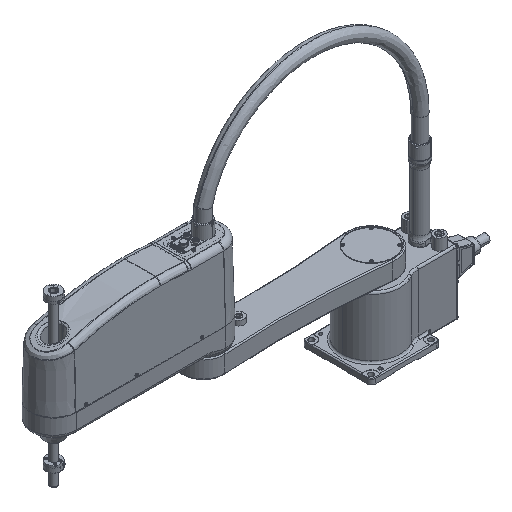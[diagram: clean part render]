
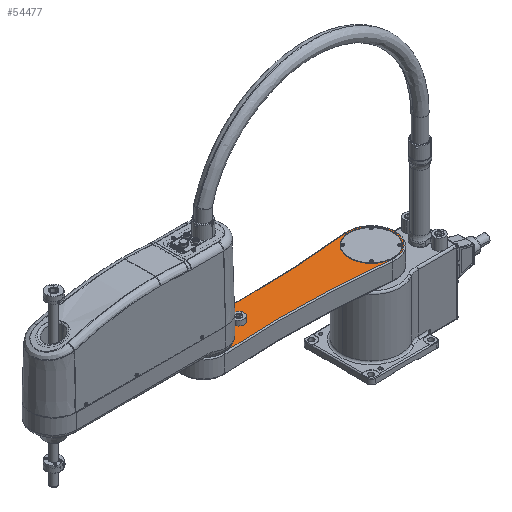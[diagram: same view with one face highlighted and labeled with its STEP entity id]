
A CAD part, isometric view. The second image highlights one B-rep face of the part: STEP entity #54477.
In plain terms, the highlighted planar face has unit normal (0, 0, 1).
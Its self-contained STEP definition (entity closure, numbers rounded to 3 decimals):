
#476 = EDGE_CURVE ( 'NONE', #72257, #97429, #12813, .T. ) ;
#738 = VERTEX_POINT ( 'NONE', #36835 ) ;
#5282 = CIRCLE ( 'NONE', #88808, 3. ) ;
#5458 = VERTEX_POINT ( 'NONE', #39497 ) ;
#5676 = ORIENTED_EDGE ( 'NONE', *, *, #22782, .T. ) ;
#5983 = DIRECTION ( 'NONE',  ( 0., 0., -1. ) ) ;
#6880 = AXIS2_PLACEMENT_3D ( 'NONE', #106410, #52424, #115445 ) ;
#7465 = LINE ( 'NONE', #12147, #28508 ) ;
#9958 = CARTESIAN_POINT ( 'NONE',  ( 446.579, -51.887, 50. ) ) ;
#10765 = AXIS2_PLACEMENT_3D ( 'NONE', #21929, #84859, #30945 ) ;
#10934 = CARTESIAN_POINT ( 'NONE',  ( 450., 0., 50. ) ) ;
#11187 = CARTESIAN_POINT ( 'NONE',  ( 451.999, -51.962, 50. ) ) ;
#11496 = VERTEX_POINT ( 'NONE', #44346 ) ;
#12147 = CARTESIAN_POINT ( 'NONE',  ( 448., -51., 50. ) ) ;
#12613 = ORIENTED_EDGE ( 'NONE', *, *, #95068, .T. ) ;
#12781 = VERTEX_POINT ( 'NONE', #105451 ) ;
#12813 = CIRCLE ( 'NONE', #35641, 52. ) ;
#14758 = AXIS2_PLACEMENT_3D ( 'NONE', #86969, #33008, #96038 ) ;
#16914 = DIRECTION ( 'NONE',  ( 0., 0., -1. ) ) ;
#18353 = ORIENTED_EDGE ( 'NONE', *, *, #38612, .F. ) ;
#18889 = DIRECTION ( 'NONE',  ( 0., 0., 1. ) ) ;
#19962 = DIRECTION ( 'NONE',  ( 1., 0., 0. ) ) ;
#20480 = DIRECTION ( 'NONE',  ( 0., 0., 1. ) ) ;
#21929 = CARTESIAN_POINT ( 'NONE',  ( 449., -52., 50. ) ) ;
#22160 = EDGE_CURVE ( 'NONE', #28696, #12781, #70699, .T. ) ;
#22195 = AXIS2_PLACEMENT_3D ( 'NONE', #72747, #18889, #81837 ) ;
#22782 = EDGE_CURVE ( 'NONE', #112933, #58259, #32563, .T. ) ;
#23342 = FACE_OUTER_BOUND ( 'NONE', #110722, .T. ) ;
#24545 = ORIENTED_EDGE ( 'NONE', *, *, #476, .T. ) ;
#24631 = DIRECTION ( 'NONE',  ( 0., 0., 1. ) ) ;
#27643 = EDGE_CURVE ( 'NONE', #68165, #112933, #76744, .T. ) ;
#28150 = AXIS2_PLACEMENT_3D ( 'NONE', #106952, #88422, #116015 ) ;
#28508 = VECTOR ( 'NONE', #56906, 1000. ) ;
#28696 = VERTEX_POINT ( 'NONE', #29093 ) ;
#28790 = ORIENTED_EDGE ( 'NONE', *, *, #93494, .F. ) ;
#29093 = CARTESIAN_POINT ( 'NONE',  ( 6.814, 61.624, 50. ) ) ;
#30916 = VERTEX_POINT ( 'NONE', #77574 ) ;
#30945 = DIRECTION ( 'NONE',  ( 1., 0., 0. ) ) ;
#32563 = CIRCLE ( 'NONE', #10765, 1. ) ;
#33008 = DIRECTION ( 'NONE',  ( 0., 0., -1. ) ) ;
#33538 = CIRCLE ( 'NONE', #14758, 2503. ) ;
#34700 = EDGE_CURVE ( 'NONE', #12781, #68165, #91666, .T. ) ;
#35641 = AXIS2_PLACEMENT_3D ( 'NONE', #99355, #108418, #89847 ) ;
#36835 = CARTESIAN_POINT ( 'NONE',  ( -59., 0., 50. ) ) ;
#38612 = EDGE_CURVE ( 'NONE', #30916, #58259, #7465, .T. ) ;
#39119 = ORIENTED_EDGE ( 'NONE', *, *, #59637, .F. ) ;
#39497 = CARTESIAN_POINT ( 'NONE',  ( 358., 0., 50. ) ) ;
#40982 = AXIS2_PLACEMENT_3D ( 'NONE', #78566, #24631, #87568 ) ;
#44283 = CIRCLE ( 'NONE', #6880, 3. ) ;
#44346 = CARTESIAN_POINT ( 'NONE',  ( 352., 0., 50. ) ) ;
#47366 = CARTESIAN_POINT ( 'NONE',  ( 446.579, 51.887, 50. ) ) ;
#48304 = DIRECTION ( 'NONE',  ( 0., 0., 1. ) ) ;
#49730 = ORIENTED_EDGE ( 'NONE', *, *, #27643, .T. ) ;
#50298 = DIRECTION ( 'NONE',  ( 0., 0., 1. ) ) ;
#51419 = EDGE_CURVE ( 'NONE', #30916, #72257, #83901, .T. ) ;
#52424 = DIRECTION ( 'NONE',  ( 0., 0., 1. ) ) ;
#53209 = CIRCLE ( 'NONE', #70415, 52. ) ;
#54257 = CIRCLE ( 'NONE', #40982, 59. ) ;
#54477 = ADVANCED_FACE ( 'NONE', ( #116284, #23342, #92309 ), #97920, .T. ) ;
#55195 = ORIENTED_EDGE ( 'NONE', *, *, #103185, .F. ) ;
#56906 = DIRECTION ( 'NONE',  ( -1., 0., 0. ) ) ;
#58259 = VERTEX_POINT ( 'NONE', #112084 ) ;
#59637 = EDGE_CURVE ( 'NONE', #11496, #5458, #44283, .T. ) ;
#59773 = CARTESIAN_POINT ( 'NONE',  ( 281.889, -2549.463, 50. ) ) ;
#61870 = ORIENTED_EDGE ( 'NONE', *, *, #34700, .T. ) ;
#65359 = CARTESIAN_POINT ( 'NONE',  ( 502., 0., 50. ) ) ;
#68165 = VERTEX_POINT ( 'NONE', #9958 ) ;
#68813 = DIRECTION ( 'NONE',  ( 1., 0., 0. ) ) ;
#70415 = AXIS2_PLACEMENT_3D ( 'NONE', #10934, #73830, #19962 ) ;
#70699 = CIRCLE ( 'NONE', #77798, 62. ) ;
#70794 = CARTESIAN_POINT ( 'NONE',  ( 451., -52., 50. ) ) ;
#72257 = VERTEX_POINT ( 'NONE', #11187 ) ;
#72497 = AXIS2_PLACEMENT_3D ( 'NONE', #59773, #5983, #68813 ) ;
#72747 = CARTESIAN_POINT ( 'NONE',  ( 0., 0., 50. ) ) ;
#73830 = DIRECTION ( 'NONE',  ( 0., 0., 1. ) ) ;
#74358 = CARTESIAN_POINT ( 'NONE',  ( 0., 0., 50. ) ) ;
#76744 = CIRCLE ( 'NONE', #115587, 52. ) ;
#77357 = ORIENTED_EDGE ( 'NONE', *, *, #51419, .T. ) ;
#77574 = CARTESIAN_POINT ( 'NONE',  ( 451., -51., 50. ) ) ;
#77798 = AXIS2_PLACEMENT_3D ( 'NONE', #74358, #20480, #83402 ) ;
#78566 = CARTESIAN_POINT ( 'NONE',  ( 0., 0., 50. ) ) ;
#79873 = DIRECTION ( 'NONE',  ( 1., 0., 0. ) ) ;
#81581 = CARTESIAN_POINT ( 'NONE',  ( 59., 0., 50. ) ) ;
#81837 = DIRECTION ( 'NONE',  ( 1., 0., 0. ) ) ;
#81924 = ORIENTED_EDGE ( 'NONE', *, *, #89623, .F. ) ;
#83402 = DIRECTION ( 'NONE',  ( 1., 0., 0. ) ) ;
#83664 = AXIS2_PLACEMENT_3D ( 'NONE', #70794, #16914, #79873 ) ;
#83901 = CIRCLE ( 'NONE', #83664, 1. ) ;
#84538 = CARTESIAN_POINT ( 'NONE',  ( 448.001, -51.962, 50. ) ) ;
#84859 = DIRECTION ( 'NONE',  ( 0., 0., -1. ) ) ;
#86969 = CARTESIAN_POINT ( 'NONE',  ( 281.889, 2549.463, 50. ) ) ;
#87568 = DIRECTION ( 'NONE',  ( 1., 0., 0. ) ) ;
#87804 = ORIENTED_EDGE ( 'NONE', *, *, #22160, .T. ) ;
#88422 = DIRECTION ( 'NONE',  ( 0., 0., 1. ) ) ;
#88808 = AXIS2_PLACEMENT_3D ( 'NONE', #104299, #50298, #113301 ) ;
#89623 = EDGE_CURVE ( 'NONE', #5458, #11496, #5282, .T. ) ;
#89847 = DIRECTION ( 'NONE',  ( 1., 0., 0. ) ) ;
#91666 = CIRCLE ( 'NONE', #72497, 2503. ) ;
#91921 = EDGE_LOOP ( 'NONE', ( #28790, #55195 ) ) ;
#92309 = FACE_BOUND ( 'NONE', #91921, .T. ) ;
#93494 = EDGE_CURVE ( 'NONE', #97328, #738, #97402, .T. ) ;
#95068 = EDGE_CURVE ( 'NONE', #109118, #28696, #33538, .T. ) ;
#96038 = DIRECTION ( 'NONE',  ( 1., 0., 0. ) ) ;
#96672 = ORIENTED_EDGE ( 'NONE', *, *, #114963, .T. ) ;
#97328 = VERTEX_POINT ( 'NONE', #81581 ) ;
#97402 = CIRCLE ( 'NONE', #22195, 59. ) ;
#97429 = VERTEX_POINT ( 'NONE', #65359 ) ;
#97920 = PLANE ( 'NONE',  #28150 ) ;
#99355 = CARTESIAN_POINT ( 'NONE',  ( 450., 0., 50. ) ) ;
#102293 = CARTESIAN_POINT ( 'NONE',  ( 450., 0., 50. ) ) ;
#103185 = EDGE_CURVE ( 'NONE', #738, #97328, #54257, .T. ) ;
#104299 = CARTESIAN_POINT ( 'NONE',  ( 355., 0., 50. ) ) ;
#105451 = CARTESIAN_POINT ( 'NONE',  ( 6.814, -61.624, 50. ) ) ;
#106410 = CARTESIAN_POINT ( 'NONE',  ( 355., 0., 50. ) ) ;
#106952 = CARTESIAN_POINT ( 'NONE',  ( 140.944, -1274.732, 50. ) ) ;
#106961 = EDGE_LOOP ( 'NONE', ( #81924, #39119 ) ) ;
#108418 = DIRECTION ( 'NONE',  ( 0., 0., 1. ) ) ;
#109118 = VERTEX_POINT ( 'NONE', #47366 ) ;
#110722 = EDGE_LOOP ( 'NONE', ( #49730, #5676, #18353, #77357, #24545, #96672, #12613, #87804, #61870 ) ) ;
#111308 = DIRECTION ( 'NONE',  ( 1., 0., 0. ) ) ;
#112084 = CARTESIAN_POINT ( 'NONE',  ( 449., -51., 50. ) ) ;
#112933 = VERTEX_POINT ( 'NONE', #84538 ) ;
#113301 = DIRECTION ( 'NONE',  ( 1., 0., 0. ) ) ;
#114963 = EDGE_CURVE ( 'NONE', #97429, #109118, #53209, .T. ) ;
#115445 = DIRECTION ( 'NONE',  ( 1., 0., 0. ) ) ;
#115587 = AXIS2_PLACEMENT_3D ( 'NONE', #102293, #48304, #111308 ) ;
#116015 = DIRECTION ( 'NONE',  ( 1., 0., 0. ) ) ;
#116284 = FACE_BOUND ( 'NONE', #106961, .T. ) ;
